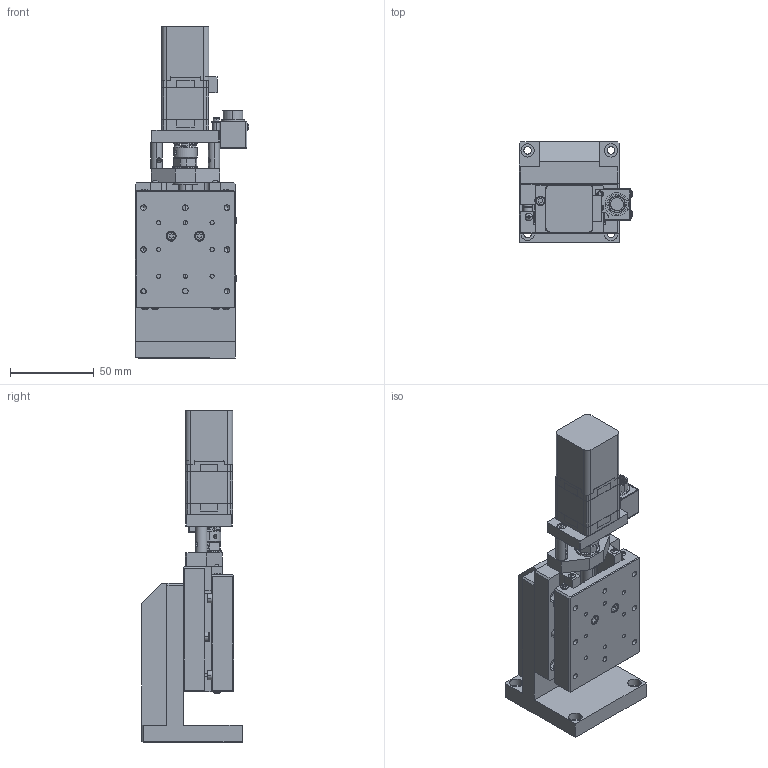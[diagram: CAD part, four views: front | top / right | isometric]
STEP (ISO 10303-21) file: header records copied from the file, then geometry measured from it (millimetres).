
FILE_DESCRIPTION (( 'STEP AP214' ), '1' );
FILE_NAME ('TZS6030B-L1-MC28L.STEP', '2025-01-03T09:04:02', ( '' ), ( '' ), 'SwSTEP 2.0', 'SolidWorks 2020', '' );
FILE_SCHEMA (( 'AUTOMOTIVE_DESIGN' ));
Length unit declared in the file: millimetre
Products named in the file (5): 28HSM006-E1; TZS6030B-L1-MC28L; TXS6030B-L1-MC28L; TXS6030B-L1-MC28L-掛极; D0201-001285 蛌諉啣60x60x96
Assembly tree (4 placements, depth 3):
  TZS6030B-L1-MC28L
    D0201-001285 蛌諉啣60x60x96
    TXS6030B-L1-MC28L
      TXS6030B-L1-MC28L-掛极
      28HSM006-E1
Bounding box: 67.98 x 60 x 198.8 mm (x, y, z)
Volume: 307475.1 mm3; surface area: 96352.7 mm2
Topology: 88 solids, 88 shells, 2097 faces, 5479 edges, 3511 vertices
Faces by surface type: plane 1017, cylinder 704, cone 184, torus 88, bspline 68, sphere 36
Entity records: 70904 total; most frequent: CARTESIAN_POINT 18224, DIRECTION 10843, ORIENTED_EDGE 10636, EDGE_CURVE 5318, AXIS2_PLACEMENT_3D 4072, VERTEX_POINT 3511, VECTOR 2699, LINE 2699
